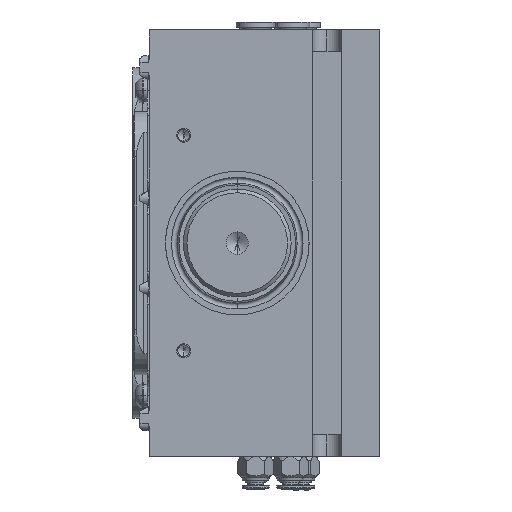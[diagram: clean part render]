
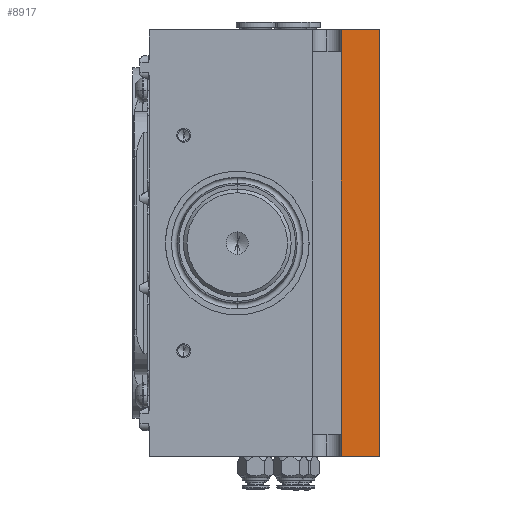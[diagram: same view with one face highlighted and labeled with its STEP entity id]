
A CAD part, left-side view. The second image highlights one B-rep face of the part: STEP entity #8917.
In plain terms, the highlighted planar face has unit normal (-1, 0, 0).
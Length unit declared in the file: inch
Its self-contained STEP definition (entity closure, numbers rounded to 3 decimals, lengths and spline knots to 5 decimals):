
#2747 = DIRECTION ( 'NONE',  ( 0., 0., 1. ) ) ;
#6042 = VERTEX_POINT ( 'NONE', #11908 ) ;
#8915 = ORIENTED_EDGE ( 'NONE', *, *, #45548, .T. ) ;
#8917 = ADVANCED_FACE ( 'NONE', ( #13312 ), #51790, .T. ) ;
#10453 = VERTEX_POINT ( 'NONE', #17741 ) ;
#11908 = CARTESIAN_POINT ( 'NONE',  ( -6.125, -2.56868, -2.96875 ) ) ;
#13312 = FACE_OUTER_BOUND ( 'NONE', #20011, .T. ) ;
#15969 = DIRECTION ( 'NONE',  ( 0., 0., -1. ) ) ;
#17402 = CARTESIAN_POINT ( 'NONE',  ( -6.125, -3.09368, -2.96875 ) ) ;
#17741 = CARTESIAN_POINT ( 'NONE',  ( -6.125, -3.09368, 2.96875 ) ) ;
#19030 = CARTESIAN_POINT ( 'NONE',  ( -6.125, -3.09368, -2.96875 ) ) ;
#19733 = DIRECTION ( 'NONE',  ( 0., 0., 1. ) ) ;
#20011 = EDGE_LOOP ( 'NONE', ( #34944, #41135, #57794, #8915 ) ) ;
#24109 = LINE ( 'NONE', #35411, #56659 ) ;
#24335 = VERTEX_POINT ( 'NONE', #47619 ) ;
#25219 = VERTEX_POINT ( 'NONE', #17402 ) ;
#29073 = DIRECTION ( 'NONE',  ( 0., 1., 0. ) ) ;
#31932 = CARTESIAN_POINT ( 'NONE',  ( -6.125, 0.10487, -2.96875 ) ) ;
#33326 = EDGE_CURVE ( 'NONE', #24335, #6042, #48085, .T. ) ;
#34843 = CARTESIAN_POINT ( 'NONE',  ( -6.125, 0.11987, -0.73794 ) ) ;
#34944 = ORIENTED_EDGE ( 'NONE', *, *, #33326, .T. ) ;
#35411 = CARTESIAN_POINT ( 'NONE',  ( -6.125, -3.09368, 2.96875 ) ) ;
#35563 = VECTOR ( 'NONE', #15969, 39.37008 ) ;
#36805 = CARTESIAN_POINT ( 'NONE',  ( -6.125, -2.56868, 2.96875 ) ) ;
#37378 = AXIS2_PLACEMENT_3D ( 'NONE', #34843, #68027, #2747 ) ;
#38987 = EDGE_CURVE ( 'NONE', #25219, #10453, #46188, .T. ) ;
#41135 = ORIENTED_EDGE ( 'NONE', *, *, #67415, .T. ) ;
#41799 = DIRECTION ( 'NONE',  ( 0., -1., 0. ) ) ;
#45548 = EDGE_CURVE ( 'NONE', #10453, #24335, #24109, .T. ) ;
#46188 = LINE ( 'NONE', #19030, #48381 ) ;
#47619 = CARTESIAN_POINT ( 'NONE',  ( -6.125, -2.56868, 2.96875 ) ) ;
#48085 = LINE ( 'NONE', #36805, #35563 ) ;
#48381 = VECTOR ( 'NONE', #19733, 39.37008 ) ;
#51790 = PLANE ( 'NONE',  #37378 ) ;
#54310 = VECTOR ( 'NONE', #41799, 39.37008 ) ;
#56659 = VECTOR ( 'NONE', #29073, 39.37008 ) ;
#57794 = ORIENTED_EDGE ( 'NONE', *, *, #38987, .T. ) ;
#67415 = EDGE_CURVE ( 'NONE', #6042, #25219, #68297, .T. ) ;
#68027 = DIRECTION ( 'NONE',  ( -1., 0., 0. ) ) ;
#68297 = LINE ( 'NONE', #31932, #54310 ) ;
